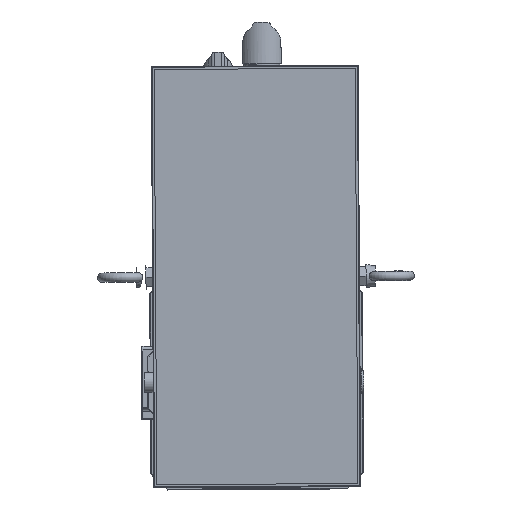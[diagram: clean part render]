
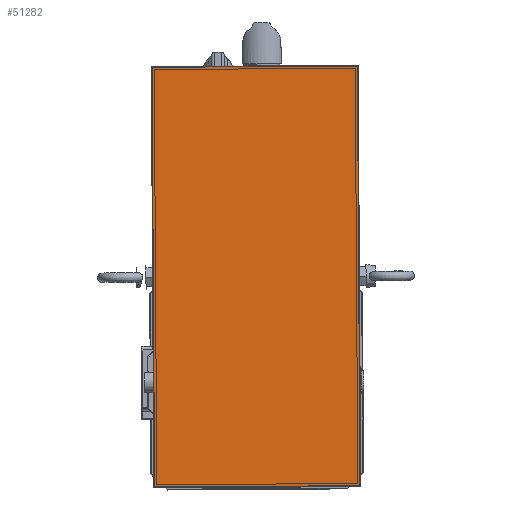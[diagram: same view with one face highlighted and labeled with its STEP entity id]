
A CAD part, top view. The second image highlights one B-rep face of the part: STEP entity #51282.
In plain terms, the highlighted planar face has unit normal (0, 0, 1).
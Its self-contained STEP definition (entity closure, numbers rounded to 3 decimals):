
#2173=PLANE('',#54827);
#6563=FACE_OUTER_BOUND('',#9463,.T.);
#9463=EDGE_LOOP('',(#38141,#38142,#38143,#38144));
#15762=LINE('',#79896,#19455);
#15765=LINE('',#79904,#19458);
#15767=LINE('',#79907,#19460);
#15771=LINE('',#79913,#19464);
#19455=VECTOR('',#62623,10.);
#19458=VECTOR('',#62632,10.);
#19460=VECTOR('',#62636,10.);
#19464=VECTOR('',#62644,10.);
#23505=VERTEX_POINT('',#79871);
#23506=VERTEX_POINT('',#79875);
#23510=VERTEX_POINT('',#79884);
#23512=VERTEX_POINT('',#79889);
#29058=EDGE_CURVE('',#23512,#23510,#15762,.T.);
#29062=EDGE_CURVE('',#23506,#23512,#15765,.T.);
#29064=EDGE_CURVE('',#23510,#23505,#15767,.T.);
#29068=EDGE_CURVE('',#23505,#23506,#15771,.T.);
#38141=ORIENTED_EDGE('',*,*,#29058,.F.);
#38142=ORIENTED_EDGE('',*,*,#29062,.F.);
#38143=ORIENTED_EDGE('',*,*,#29068,.F.);
#38144=ORIENTED_EDGE('',*,*,#29064,.F.);
#51282=ADVANCED_FACE('',(#6563),#2173,.T.);
#54827=AXIS2_PLACEMENT_3D('',#79924,#62659,#62660);
#62623=DIRECTION('',(-0.006,1.,0.));
#62632=DIRECTION('',(-1.,-0.006,0.));
#62636=DIRECTION('',(1.,0.006,0.));
#62644=DIRECTION('',(0.006,-1.,0.));
#62659=DIRECTION('center_axis',(0.,0.,
1.));
#62660=DIRECTION('ref_axis',(0.006,-1.,0.));
#79871=CARTESIAN_POINT('',(68.683,214.925,661.));
#79875=CARTESIAN_POINT('',(70.437,-71.069,661.));
#79884=CARTESIAN_POINT('',(-71.314,214.067,661.));
#79889=CARTESIAN_POINT('',(-69.56,-71.928,661.));
#79896=CARTESIAN_POINT('',(-69.569,-70.428,661.));
#79904=CARTESIAN_POINT('',(34.688,-71.289,661.));
#79907=CARTESIAN_POINT('',(32.934,214.706,661.));
#79913=CARTESIAN_POINT('',(70.428,-69.569,661.));
#79924=CARTESIAN_POINT('Origin',(68.928,-69.579,661.));
